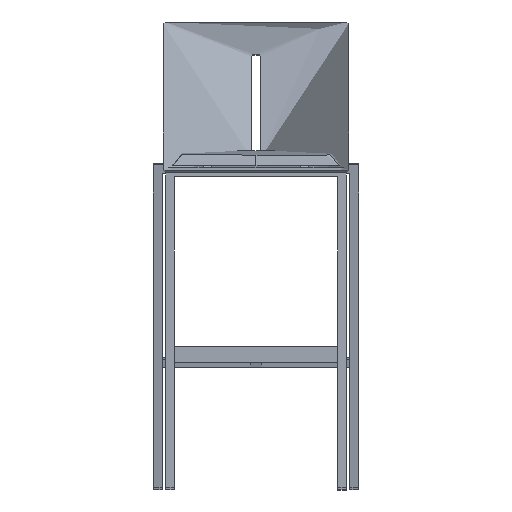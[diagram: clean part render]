
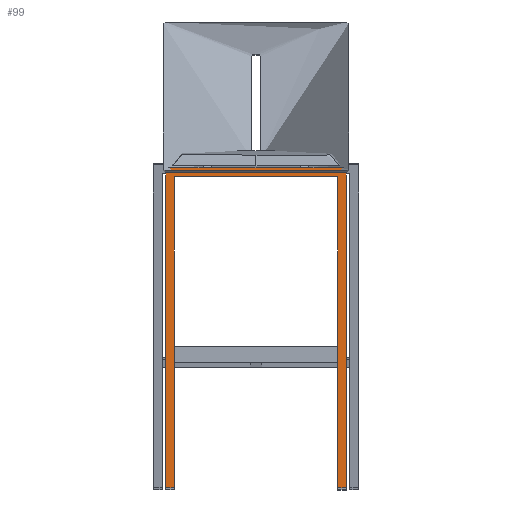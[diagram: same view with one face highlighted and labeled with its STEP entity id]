
A CAD part, front view. The second image highlights one B-rep face of the part: STEP entity #99.
In plain terms, the highlighted planar face has unit normal (0, -1, 0).
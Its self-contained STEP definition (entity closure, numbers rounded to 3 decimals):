
#99=ADVANCED_FACE('',(#205),#1631,.T.);
#205=FACE_OUTER_BOUND('',#308,.T.);
#308=EDGE_LOOP('',(#476,#477,#478,#479,#480,#481,#482,#483,#484,#485,#486,
#487));
#476=ORIENTED_EDGE('',*,*,#932,.F.);
#477=ORIENTED_EDGE('',*,*,#936,.F.);
#478=ORIENTED_EDGE('',*,*,#946,.T.);
#479=ORIENTED_EDGE('',*,*,#959,.F.);
#480=ORIENTED_EDGE('',*,*,#953,.T.);
#481=ORIENTED_EDGE('',*,*,#899,.F.);
#482=ORIENTED_EDGE('',*,*,#900,.F.);
#483=ORIENTED_EDGE('',*,*,#901,.T.);
#484=ORIENTED_EDGE('',*,*,#902,.F.);
#485=ORIENTED_EDGE('',*,*,#903,.F.);
#486=ORIENTED_EDGE('',*,*,#904,.T.);
#487=ORIENTED_EDGE('',*,*,#960,.F.);
#899=EDGE_CURVE('',#1430,#1429,#1175,.T.);
#900=EDGE_CURVE('',#1431,#1430,#1176,.T.);
#901=EDGE_CURVE('',#1431,#1432,#1177,.T.);
#902=EDGE_CURVE('',#1433,#1432,#1178,.T.);
#903=EDGE_CURVE('',#1434,#1433,#1179,.T.);
#904=EDGE_CURVE('',#1434,#1463,#1180,.T.);
#932=EDGE_CURVE('',#1436,#1435,#1208,.T.);
#936=EDGE_CURVE('',#1437,#1436,#1212,.T.);
#946=EDGE_CURVE('',#1437,#1438,#1222,.T.);
#953=EDGE_CURVE('',#1461,#1429,#1229,.T.);
#959=EDGE_CURVE('',#1461,#1438,#1235,.T.);
#960=EDGE_CURVE('',#1435,#1463,#1236,.T.);
#1175=B_SPLINE_CURVE_WITH_KNOTS('',1,(#2078,#2079),.UNSPECIFIED.,.F.,.F.,
(2,2),(0.,1.),.UNSPECIFIED.);
#1176=B_SPLINE_CURVE_WITH_KNOTS('',1,(#2080,#2081),.UNSPECIFIED.,.F.,.F.,
(2,2),(0.,1.),.UNSPECIFIED.);
#1177=B_SPLINE_CURVE_WITH_KNOTS('',1,(#2082,#2083),.UNSPECIFIED.,.F.,.F.,
(2,2),(0.,1.),.UNSPECIFIED.);
#1178=B_SPLINE_CURVE_WITH_KNOTS('',1,(#2084,#2085),.UNSPECIFIED.,.F.,.F.,
(2,2),(0.,1.),.UNSPECIFIED.);
#1179=B_SPLINE_CURVE_WITH_KNOTS('',1,(#2086,#2087),.UNSPECIFIED.,.F.,.F.,
(2,2),(0.,1.),.UNSPECIFIED.);
#1180=B_SPLINE_CURVE_WITH_KNOTS('',1,(#2088,#2089),.UNSPECIFIED.,.F.,.F.,
(2,2),(0.,0.971),.UNSPECIFIED.);
#1208=B_SPLINE_CURVE_WITH_KNOTS('',1,(#2144,#2145),.UNSPECIFIED.,.F.,.F.,
(2,2),(0.,20.),.UNSPECIFIED.);
#1212=B_SPLINE_CURVE_WITH_KNOTS('',1,(#2152,#2153),.UNSPECIFIED.,.F.,.F.,
(2,2),(-271.565,0.),.UNSPECIFIED.);
#1222=B_SPLINE_CURVE_WITH_KNOTS('',1,(#2172,#2173),.UNSPECIFIED.,.F.,.F.,
(2,2),(0.,20.),.UNSPECIFIED.);
#1229=B_SPLINE_CURVE_WITH_KNOTS('',1,(#2186,#2187),.UNSPECIFIED.,.F.,.F.,
(2,2),(0.029,1.),.UNSPECIFIED.);
#1235=B_SPLINE_CURVE_WITH_KNOTS('',1,(#2198,#2199),.UNSPECIFIED.,.F.,.F.,
(2,2),(-33.928,2.286),.UNSPECIFIED.);
#1236=B_SPLINE_CURVE_WITH_KNOTS('',1,(#2200,#2201),.UNSPECIFIED.,.F.,.F.,
(2,2),(-27.856,8.358),.UNSPECIFIED.);
#1429=VERTEX_POINT('',#2002);
#1430=VERTEX_POINT('',#2003);
#1431=VERTEX_POINT('',#2004);
#1432=VERTEX_POINT('',#2005);
#1433=VERTEX_POINT('',#2006);
#1434=VERTEX_POINT('',#2007);
#1435=VERTEX_POINT('',#2008);
#1436=VERTEX_POINT('',#2009);
#1437=VERTEX_POINT('',#2010);
#1438=VERTEX_POINT('',#2011);
#1461=VERTEX_POINT('',#2034);
#1463=VERTEX_POINT('',#2036);
#1631=PLANE('',#1789);
#1789=AXIS2_PLACEMENT_3D('',#1942,#1864,$);
#1864=DIRECTION('',(0.,-1.,0.));
#1942=CARTESIAN_POINT('',(205.,-219.808,5.408));
#2002=CARTESIAN_POINT('',(-205.,-219.808,5.408));
#2003=CARTESIAN_POINT('',(-185.,-219.808,5.408));
#2004=CARTESIAN_POINT('',(-185.,-219.808,710.));
#2005=CARTESIAN_POINT('',(185.,-219.808,710.));
#2006=CARTESIAN_POINT('',(185.,-219.808,5.408));
#2007=CARTESIAN_POINT('',(205.,-219.808,5.408));
#2008=CARTESIAN_POINT('',(120.,-219.808,730.));
#2009=CARTESIAN_POINT('',(100.,-219.808,730.));
#2010=CARTESIAN_POINT('',(-100.,-219.808,730.));
#2011=CARTESIAN_POINT('',(-120.,-219.808,730.));
#2034=CARTESIAN_POINT('',(-205.,-219.808,730.));
#2036=CARTESIAN_POINT('',(205.,-219.808,730.));
#2078=CARTESIAN_POINT('',(-185.,-219.808,5.408));
#2079=CARTESIAN_POINT('',(-205.,-219.808,5.408));
#2080=CARTESIAN_POINT('',(-185.,-219.808,710.));
#2081=CARTESIAN_POINT('',(-185.,-219.808,5.408));
#2082=CARTESIAN_POINT('',(-185.,-219.808,710.));
#2083=CARTESIAN_POINT('',(185.,-219.808,710.));
#2084=CARTESIAN_POINT('',(185.,-219.808,5.408));
#2085=CARTESIAN_POINT('',(185.,-219.808,710.));
#2086=CARTESIAN_POINT('',(205.,-219.808,5.408));
#2087=CARTESIAN_POINT('',(185.,-219.808,5.408));
#2088=CARTESIAN_POINT('',(205.,-219.808,5.408));
#2089=CARTESIAN_POINT('',(205.,-219.808,730.));
#2144=CARTESIAN_POINT('',(100.,-219.808,730.));
#2145=CARTESIAN_POINT('',(120.,-219.808,730.));
#2152=CARTESIAN_POINT('',(-100.,-219.808,730.));
#2153=CARTESIAN_POINT('',(100.,-219.808,730.));
#2172=CARTESIAN_POINT('',(-100.,-219.808,730.));
#2173=CARTESIAN_POINT('',(-120.,-219.808,730.));
#2186=CARTESIAN_POINT('',(-205.,-219.808,730.));
#2187=CARTESIAN_POINT('',(-205.,-219.808,5.408));
#2198=CARTESIAN_POINT('',(-205.,-219.808,730.));
#2199=CARTESIAN_POINT('',(-120.,-219.808,730.));
#2200=CARTESIAN_POINT('',(120.,-219.808,730.));
#2201=CARTESIAN_POINT('',(205.,-219.808,730.));
